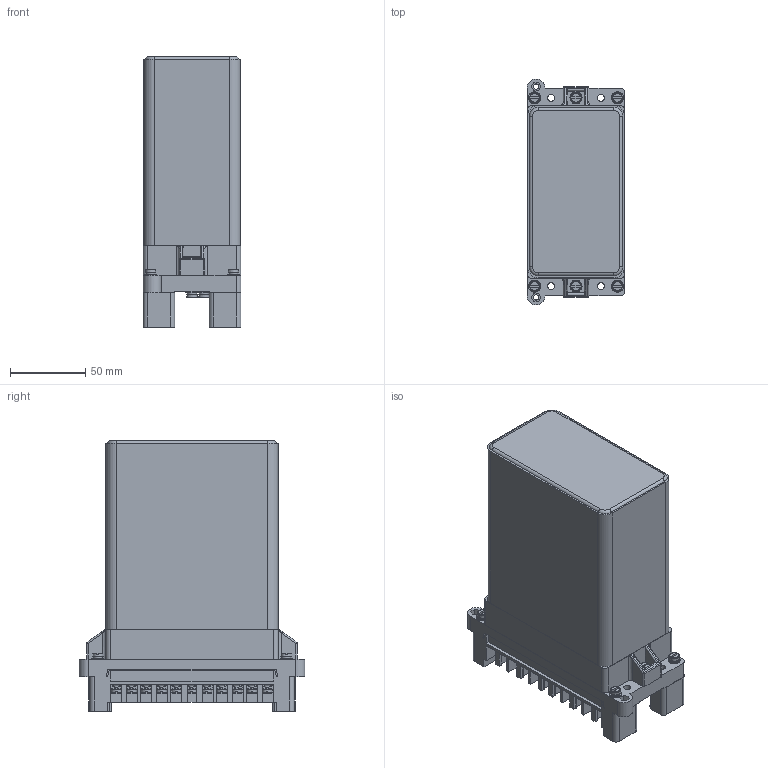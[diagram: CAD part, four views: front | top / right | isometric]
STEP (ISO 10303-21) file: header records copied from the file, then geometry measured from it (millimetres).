
FILE_DESCRIPTION(('STEP AP214'), '1');
FILE_NAME('ÈÃÔÐ.647537.001-86 - Ðåëå âðåìåíè', '', ('UNSPECIFIED'), ('UNSPECIFIED'), 'ASCON STEP Converter 1.3', 'ASCON Math Kernel', '');
FILE_SCHEMA(('AUTOMOTIVE_DESIGN { 1 0 10303 214 3 1 1}'));
Length unit declared in the file: millimetre
Products named in the file (1): 让孕.647537.001-86
Bounding box: 65 x 150 x 179.5 mm (x, y, z)
Volume: 1176181.7 mm3; surface area: 133661.9 mm2
Topology: 4 solids, 4 shells, 7468 faces, 18312 edges, 11018 vertices
Faces by surface type: plane 5789, cylinder 885, extrusion 628, torus 119, cone 35, bspline 12
Full cylindrical faces by diameter (mm): 1 x18, 3.5 x2, 4 x40, 4.3 x6, 4.5 x31, 5 x2, 5.2 x11, 5.9 x4, 7.5 x2, 8 x8, 8.8 x3
Entity records: 278675 total; most frequent: CARTESIAN_POINT 47548, ORIENTED_EDGE 36102, DIRECTION 32792, EDGE_CURVE 18051, VECTOR 14918, LINE 14290, VERTEX_POINT 11007, AXIS2_PLACEMENT_3D 8937
